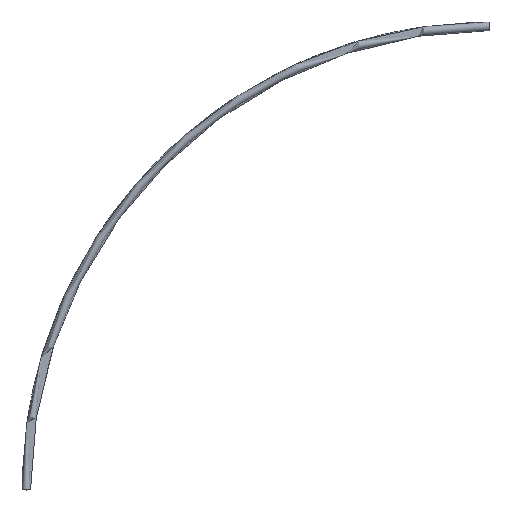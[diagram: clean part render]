
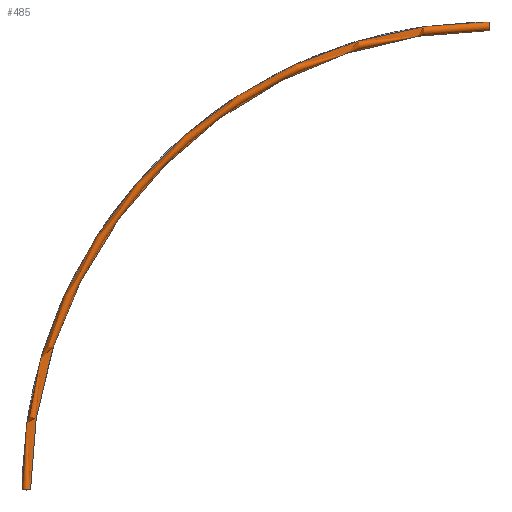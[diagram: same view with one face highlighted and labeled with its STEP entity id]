
A CAD part, top view. The second image highlights one B-rep face of the part: STEP entity #485.
In plain terms, the highlighted toroidal (fillet/blend) face has major radius 2725 mm and minor radius 25 mm.
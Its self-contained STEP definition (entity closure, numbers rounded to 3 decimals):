
#471 = ORIENTED_EDGE ( 'NONE', *, *, #472, .F. ) ;
#472 = EDGE_CURVE ( 'NONE', #601, #602, #2393, .T. ) ;
#475 = EDGE_CURVE ( 'NONE', #605, #607, #2465, .T. ) ;
#476 = ORIENTED_EDGE ( 'NONE', *, *, #477, .F. ) ;
#477 = EDGE_CURVE ( 'NONE', #602, #607, #2460, .T. ) ;
#485 = ADVANCED_FACE ( 'NONE', ( #2495 ), #2491, .T. ) ;
#486 = EDGE_LOOP ( 'NONE', ( #471, #603, #606, #476 ) ) ;
#601 = VERTEX_POINT ( 'NONE', #2863 ) ;
#602 = VERTEX_POINT ( 'NONE', #2858 ) ;
#603 = ORIENTED_EDGE ( 'NONE', *, *, #604, .T. ) ;
#604 = EDGE_CURVE ( 'NONE', #601, #605, #2857, .T. ) ;
#605 = VERTEX_POINT ( 'NONE', #2852 ) ;
#606 = ORIENTED_EDGE ( 'NONE', *, *, #475, .T. ) ;
#607 = VERTEX_POINT ( 'NONE', #2851 ) ;
#2389 = DIRECTION ( 'NONE',  ( 0., 0., 1. ) ) ;
#2390 = DIRECTION ( 'NONE',  ( 1., 0., 0. ) ) ;
#2391 = CARTESIAN_POINT ( 'NONE',  ( 0., 2725., 0. ) ) ;
#2392 = AXIS2_PLACEMENT_3D ( 'NONE', #2391, #2390, #2389 ) ;
#2393 = CIRCLE ( 'NONE', #2392, 25. ) ;
#2456 = DIRECTION ( 'NONE',  ( 1., 0., 0. ) ) ;
#2457 = DIRECTION ( 'NONE',  ( 0., 0., 1. ) ) ;
#2458 = CARTESIAN_POINT ( 'NONE',  ( 0., 0., 0. ) ) ;
#2459 = AXIS2_PLACEMENT_3D ( 'NONE', #2458, #2457, #2456 ) ;
#2460 = CIRCLE ( 'NONE', #2459, 2700. ) ;
#2461 = DIRECTION ( 'NONE',  ( 0., 0., 1. ) ) ;
#2462 = DIRECTION ( 'NONE',  ( 0., 1., 0. ) ) ;
#2463 = CARTESIAN_POINT ( 'NONE',  ( -2725., 0., 0. ) ) ;
#2464 = AXIS2_PLACEMENT_3D ( 'NONE', #2463, #2462, #2461 ) ;
#2465 = CIRCLE ( 'NONE', #2464, 25. ) ;
#2491 = TOROIDAL_SURFACE ( 'NONE', #2494, 2725., 25. ) ;
#2493 = CARTESIAN_POINT ( 'NONE',  ( 0., 0., 0. ) ) ;
#2494 = AXIS2_PLACEMENT_3D ( 'NONE', #2493, #2557, #2556 ) ;
#2495 = FACE_OUTER_BOUND ( 'NONE', #486, .T. ) ;
#2556 = DIRECTION ( 'NONE',  ( 1., 0., 0. ) ) ;
#2557 = DIRECTION ( 'NONE',  ( 0., 0., 1. ) ) ;
#2851 = CARTESIAN_POINT ( 'NONE',  ( -2700., 0., 0. ) ) ;
#2852 = CARTESIAN_POINT ( 'NONE',  ( -2750., 0., 0. ) ) ;
#2853 = DIRECTION ( 'NONE',  ( 1., 0., 0. ) ) ;
#2854 = DIRECTION ( 'NONE',  ( 0., 0., 1. ) ) ;
#2855 = CARTESIAN_POINT ( 'NONE',  ( 0., 0., 0. ) ) ;
#2856 = AXIS2_PLACEMENT_3D ( 'NONE', #2855, #2854, #2853 ) ;
#2857 = CIRCLE ( 'NONE', #2856, 2750. ) ;
#2858 = CARTESIAN_POINT ( 'NONE',  ( 0., 2700., 0. ) ) ;
#2863 = CARTESIAN_POINT ( 'NONE',  ( 0., 2750., 0. ) ) ;
